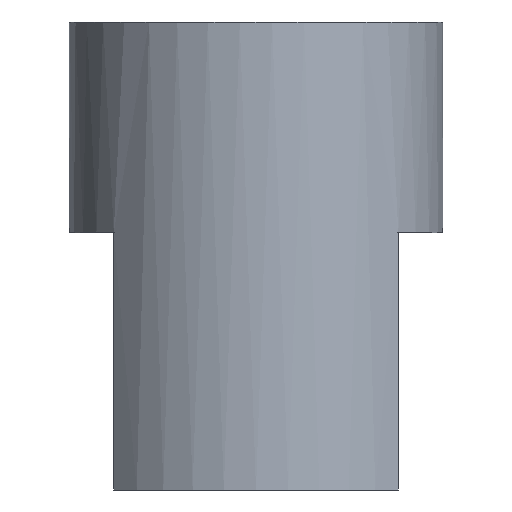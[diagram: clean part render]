
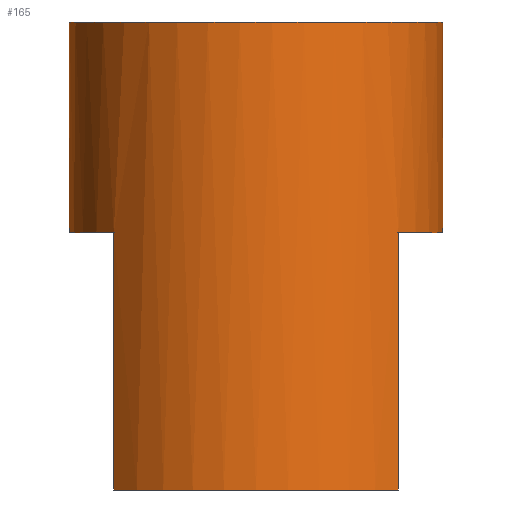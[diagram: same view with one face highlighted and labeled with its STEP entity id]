
A CAD part, front view. The second image highlights one B-rep face of the part: STEP entity #165.
In plain terms, the highlighted cylindrical face has radius 4 mm (diameter 8 mm), a partial arc.
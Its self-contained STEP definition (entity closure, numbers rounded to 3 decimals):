
#16=CYLINDRICAL_SURFACE('',#196,4.);
#19=CIRCLE('',#182,4.);
#22=CIRCLE('',#188,4.);
#23=CIRCLE('',#189,4.);
#24=CIRCLE('',#192,4.);
#25=CIRCLE('',#194,4.);
#26=CIRCLE('',#195,4.);
#35=FACE_OUTER_BOUND('',#46,.T.);
#46=EDGE_LOOP('',(#138,#139,#140,#141,#142,#143,#144,#145,#146,#147,#148,
#149));
#48=LINE('',#252,#61);
#50=LINE('',#255,#63);
#52=LINE('',#267,#65);
#54=LINE('',#271,#67);
#57=LINE('',#281,#70);
#59=LINE('',#284,#72);
#61=VECTOR('',#202,10.);
#63=VECTOR('',#204,10.);
#65=VECTOR('',#218,10.);
#67=VECTOR('',#220,10.);
#70=VECTOR('',#231,10.);
#72=VECTOR('',#233,10.);
#73=VERTEX_POINT('',#248);
#74=VERTEX_POINT('',#249);
#75=VERTEX_POINT('',#251);
#76=VERTEX_POINT('',#253);
#79=VERTEX_POINT('',#265);
#80=VERTEX_POINT('',#266);
#81=VERTEX_POINT('',#268);
#82=VERTEX_POINT('',#270);
#83=VERTEX_POINT('',#274);
#84=VERTEX_POINT('',#276);
#85=VERTEX_POINT('',#280);
#86=VERTEX_POINT('',#282);
#88=EDGE_CURVE('',#75,#73,#48,.T.);
#90=EDGE_CURVE('',#74,#76,#50,.T.);
#91=EDGE_CURVE('',#74,#73,#19,.T.);
#95=EDGE_CURVE('',#79,#80,#52,.T.);
#97=EDGE_CURVE('',#82,#81,#54,.T.);
#99=EDGE_CURVE('',#83,#79,#22,.T.);
#101=EDGE_CURVE('',#81,#84,#23,.T.);
#102=EDGE_CURVE('',#85,#83,#57,.T.);
#104=EDGE_CURVE('',#84,#86,#59,.T.);
#105=EDGE_CURVE('',#86,#85,#24,.T.);
#106=EDGE_CURVE('',#80,#75,#25,.T.);
#107=EDGE_CURVE('',#76,#82,#26,.T.);
#138=ORIENTED_EDGE('',*,*,#88,.T.);
#139=ORIENTED_EDGE('',*,*,#91,.F.);
#140=ORIENTED_EDGE('',*,*,#90,.T.);
#141=ORIENTED_EDGE('',*,*,#107,.T.);
#142=ORIENTED_EDGE('',*,*,#97,.T.);
#143=ORIENTED_EDGE('',*,*,#101,.T.);
#144=ORIENTED_EDGE('',*,*,#104,.T.);
#145=ORIENTED_EDGE('',*,*,#105,.T.);
#146=ORIENTED_EDGE('',*,*,#102,.T.);
#147=ORIENTED_EDGE('',*,*,#99,.T.);
#148=ORIENTED_EDGE('',*,*,#95,.T.);
#149=ORIENTED_EDGE('',*,*,#106,.T.);
#165=ADVANCED_FACE('',(#35),#16,.T.);
#182=AXIS2_PLACEMENT_3D('',#257,#207,#208);
#188=AXIS2_PLACEMENT_3D('',#275,#224,#225);
#189=AXIS2_PLACEMENT_3D('',#278,#227,#228);
#192=AXIS2_PLACEMENT_3D('',#286,#236,#237);
#194=AXIS2_PLACEMENT_3D('',#288,#240,#241);
#195=AXIS2_PLACEMENT_3D('',#289,#242,#243);
#196=AXIS2_PLACEMENT_3D('',#290,#244,#245);
#202=DIRECTION('',(0.,0.,1.));
#204=DIRECTION('',(0.,0.,-1.));
#207=DIRECTION('center_axis',(0.,0.,1.));
#208=DIRECTION('ref_axis',(1.,0.,0.));
#218=DIRECTION('',(0.,0.,-1.));
#220=DIRECTION('',(0.,0.,1.));
#224=DIRECTION('center_axis',(0.,0.,1.));
#225=DIRECTION('ref_axis',(0.,-1.,0.));
#227=DIRECTION('center_axis',(0.,0.,1.));
#228=DIRECTION('ref_axis',(0.,-1.,0.));
#231=DIRECTION('',(0.,0.,1.));
#233=DIRECTION('',(0.,0.,-1.));
#236=DIRECTION('center_axis',(0.,0.,1.));
#237=DIRECTION('ref_axis',(1.,0.,0.));
#240=DIRECTION('center_axis',(0.,0.,1.));
#241=DIRECTION('ref_axis',(1.,0.,0.));
#242=DIRECTION('center_axis',(0.,0.,1.));
#243=DIRECTION('ref_axis',(1.,0.,0.));
#244=DIRECTION('center_axis',(0.,0.,1.));
#245=DIRECTION('ref_axis',(0.,-1.,0.));
#248=CARTESIAN_POINT('',(1.744,3.6,10.));
#249=CARTESIAN_POINT('',(-1.744,3.6,10.));
#251=CARTESIAN_POINT('',(1.744,3.6,0.));
#252=CARTESIAN_POINT('',(1.744,3.6,5.));
#253=CARTESIAN_POINT('',(-1.744,3.6,0.));
#255=CARTESIAN_POINT('',(-1.744,3.6,5.));
#257=CARTESIAN_POINT('Origin',(0.,0.,10.));
#265=CARTESIAN_POINT('',(3.04,2.6,5.5));
#266=CARTESIAN_POINT('',(3.04,2.6,0.));
#267=CARTESIAN_POINT('',(3.04,2.6,5.));
#268=CARTESIAN_POINT('',(-3.04,2.6,5.5));
#270=CARTESIAN_POINT('',(-3.04,2.6,0.));
#271=CARTESIAN_POINT('',(-3.04,2.6,5.));
#274=CARTESIAN_POINT('',(3.04,-2.6,5.5));
#275=CARTESIAN_POINT('Origin',(0.,0.,5.5));
#276=CARTESIAN_POINT('',(-3.04,-2.6,5.5));
#278=CARTESIAN_POINT('Origin',(0.,0.,5.5));
#280=CARTESIAN_POINT('',(3.04,-2.6,0.));
#281=CARTESIAN_POINT('',(3.04,-2.6,5.));
#282=CARTESIAN_POINT('',(-3.04,-2.6,0.));
#284=CARTESIAN_POINT('',(-3.04,-2.6,5.));
#286=CARTESIAN_POINT('Origin',(0.,0.,0.));
#288=CARTESIAN_POINT('Origin',(0.,0.,0.));
#289=CARTESIAN_POINT('Origin',(0.,0.,0.));
#290=CARTESIAN_POINT('Origin',(0.,0.,5.));
